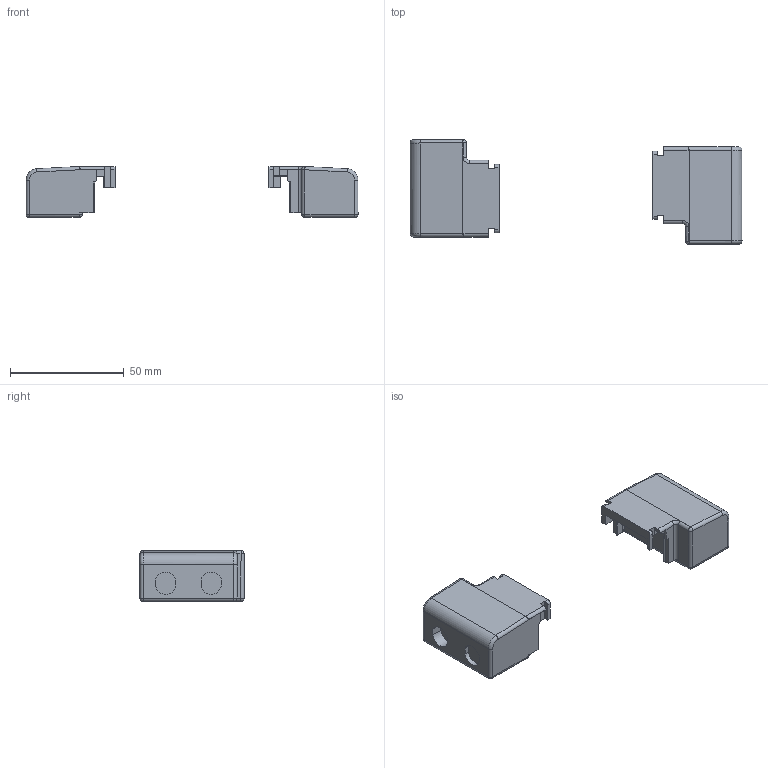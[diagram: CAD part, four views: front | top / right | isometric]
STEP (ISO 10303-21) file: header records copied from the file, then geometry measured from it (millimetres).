
FILE_DESCRIPTION((''),'2;1');
FILE_NAME('ACU_SC_SR_97_PRI_SEC','2016-06-06T',('Elon.Guo'),(''),'PRO/ENGINEER BY PARAMETRIC TECHNOLOGY CORPORATION, 2015200','PRO/ENGINEER BY PARAMETRIC TECHNOLOGY CORPORATION, 2015200','');
FILE_SCHEMA(('AUTOMOTIVE_DESIGN { 1 0 10303 214 1 1 1 1 }'));
Length unit declared in the file: millimetre
Products named in the file (2): ACU_SC_SR_97_PRI; ACU_SC_SR_97_PRI_SEC
Assembly tree (2 placements, depth 2):
  ACU_SC_SR_97_PRI_SEC
    ACU_SC_SR_97_PRI  x2
Bounding box: 146.17 x 45.95 x 22.39 mm (x, y, z)
Volume: 43882.4 mm3; surface area: 15793.7 mm2
Topology: 2 solids, 10 shells, 266 faces, 668 edges, 422 vertices
Faces by surface type: plane 174, cylinder 42, extrusion 34, sphere 8, torus 6, bspline 2
Entity records: 6278 total; most frequent: CARTESIAN_POINT 1452, ORIENTED_EDGE 660, DIRECTION 584, PRESENTATION_STYLE_ASSIGNMENT 336, STYLED_ITEM 336, CURVE_STYLE 334, EDGE_CURVE 334, VECTOR 272
